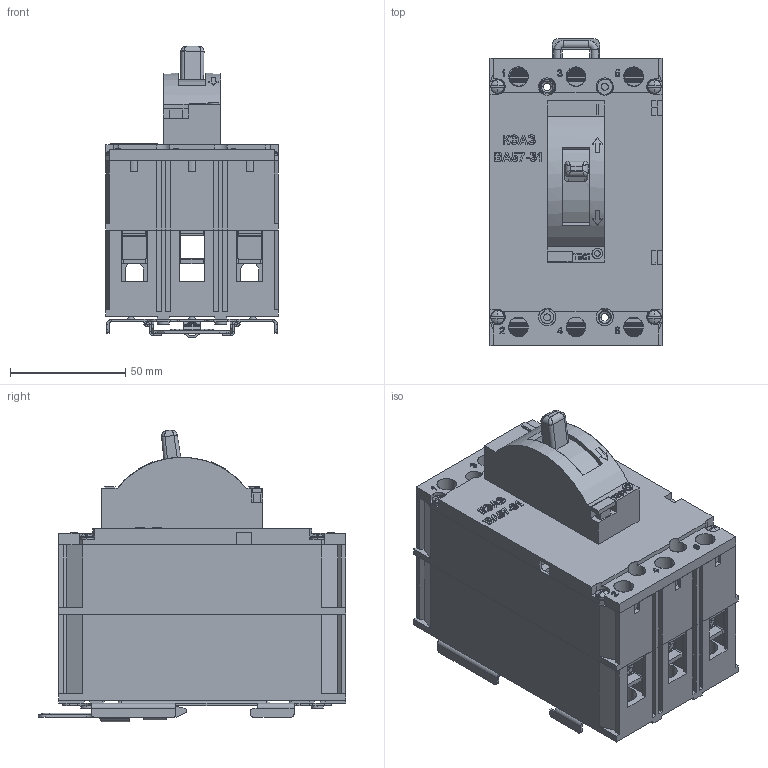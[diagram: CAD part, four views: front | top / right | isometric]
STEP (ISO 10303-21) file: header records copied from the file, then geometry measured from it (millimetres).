
FILE_DESCRIPTION (( 'STEP AP214' ), '1' );
FILE_NAME ('ÂÀ57-31 ñ àäàïòåðîì.STEP', '2015-05-29T12:22:23', ( 'admin' ), ( '' ), 'SwSTEP 2.0', 'SolidWorks 2012', '' );
FILE_SCHEMA (( 'AUTOMOTIVE_DESIGN' ));
Length unit declared in the file: millimetre
Products named in the file (1): ÂÀ57-31 ñ àäàïòåðîì
Bounding box: 74.8 x 133.4 x 126.58 mm (x, y, z)
Surface area: 110916.6 mm2 (no closed solid volume)
Topology: 0 solids, 1081 shells, 1584 faces, 7269 edges, 6769 vertices
Faces by surface type: plane 1033, cylinder 355, bspline 126, torus 32, cone 22, sphere 16
Entity records: 123078 total; most frequent: CARTESIAN_POINT 50413, DIRECTION 10038, ORIENTED_EDGE 8465, EDGE_CURVE 7265, VERTEX_POINT 6769, VECTOR 5320, LINE 5320, AXIS2_PLACEMENT_3D 2359
